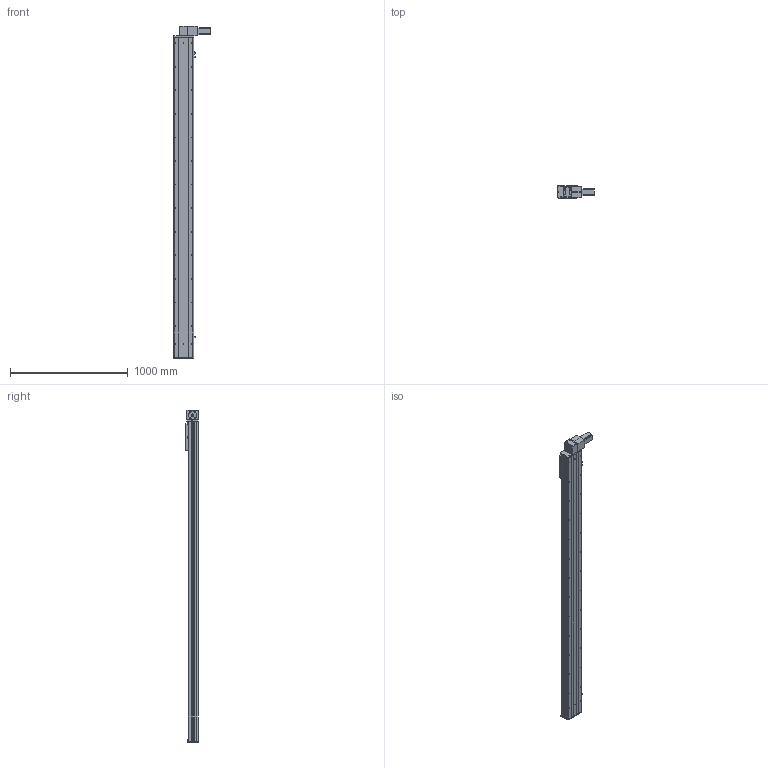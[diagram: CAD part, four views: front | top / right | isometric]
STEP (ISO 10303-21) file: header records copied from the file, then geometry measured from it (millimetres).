
FILE_DESCRIPTION (( 'STEP AP203' ), '1' );
FILE_NAME ('Y170CB-D105-S2400-BD-P400W.STEP', '2020-02-20T09:09:32', ( '微软用户' ), ( '微软中国' ), 'SwSTEP 2.0', 'SolidWorks 2017', '' );
FILE_SCHEMA (( 'CONFIG_CONTROL_DESIGN' ));
Length unit declared in the file: millimetre
Products named in the file (16): 70CB-掛极-; Y170CB-陔俋离換覜結え---; --70CB --喘謫眊楊擘啣-; Y1埴倛裔; 70CB-耜裔啣-; 70B喘謫眊----; 70C--詩湍揤踡え-; 0B薊粣ん眊-400W--; 70CB--耜裔; Y170CB-D105-S2400-BD-P400W; 70C-雄赽釱-奻-; 0C--雄赽釱俋欶-170; B-源倛裔啣; 70CB-詩湍--; san松下电机400不带刹车----; Y100-135俋离換覜ん--
Assembly tree (19 placements, depth 2):
  Y170CB-D105-S2400-BD-P400W
    B-源倛裔啣
    san松下电机400不带刹车----
    70CB-掛极-
    --70CB --喘謫眊楊擘啣-
    70CB-耜裔啣-  x2
    70C--詩湍揤踡え-  x2
    70CB--耜裔
    70C-雄赽釱-奻-
    0C--雄赽釱俋欶-170
    70CB-詩湍--
    Y100-135俋离換覜ん--  x3
    Y170CB-陔俋离換覜結え---
    Y1埴倛裔
    70B喘謫眊----
    0B薊粣ん眊-400W--
Bounding box: 313.5 x 107 x 2816 mm (x, y, z)
Volume: 12339157.9 mm3; surface area: 4322912.7 mm2
Topology: 19 solids, 19 shells, 976 faces, 2594 edges, 1720 vertices
Faces by surface type: cylinder 530, plane 422, cone 24
Entity records: 30763 total; most frequent: CARTESIAN_POINT 5746, DIRECTION 5007, ORIENTED_EDGE 4670, EDGE_CURVE 2335, AXIS2_PLACEMENT_3D 1861, VERTEX_POINT 1550, VECTOR 1285, LINE 1285
